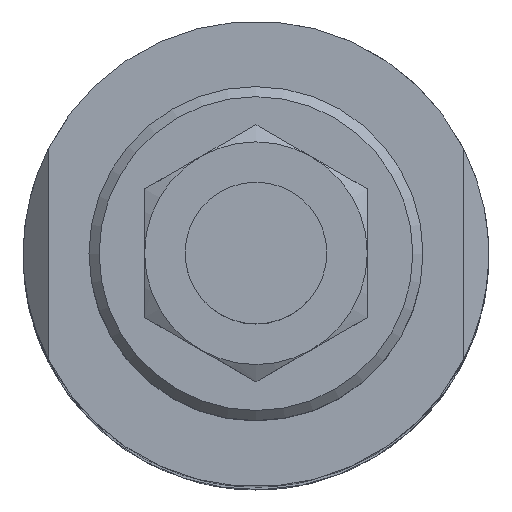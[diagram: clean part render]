
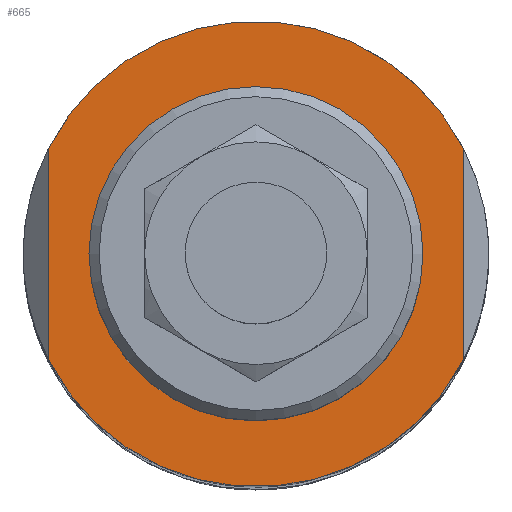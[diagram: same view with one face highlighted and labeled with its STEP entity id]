
A CAD part, top view. The second image highlights one B-rep face of the part: STEP entity #665.
In plain terms, the highlighted planar face has unit normal (0, 0, 1).
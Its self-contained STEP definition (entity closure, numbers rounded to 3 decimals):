
#549=CARTESIAN_POINT('',(-20.5,10.428,213.0));
#550=VERTEX_POINT('',#549);
#558=CARTESIAN_POINT('',(-20.5,-10.428,213.0));
#559=VERTEX_POINT('',#558);
#566=CARTESIAN_POINT('',(-20.5,10.428,213.0));
#567=DIRECTION('',(0.0,-1.0,0.0));
#568=VECTOR('',#567,20.857);
#569=LINE('',#566,#568);
#570=EDGE_CURVE('',#550,#559,#569,.T.);
#605=CARTESIAN_POINT('',(20.5,-10.428,213.));
#606=VERTEX_POINT('',#605);
#614=CARTESIAN_POINT('',(20.5,10.428,213.));
#615=VERTEX_POINT('',#614);
#622=CARTESIAN_POINT('',(20.5,-10.428,213.));
#623=DIRECTION('',(0.0,1.0,0.0));
#624=VECTOR('',#623,20.857);
#625=LINE('',#622,#624);
#626=EDGE_CURVE('',#606,#615,#625,.T.);
#631=CARTESIAN_POINT('',(0.0,0.0,213.0));
#632=DIRECTION('',(0.0,0.0,-1.0));
#633=DIRECTION('',(-1.0,0.0,0.0));
#634=AXIS2_PLACEMENT_3D('',#631,#632,#633);
#635=PLANE('',#634);
#636=ORIENTED_EDGE('',*,*,#570,.T.);
#637=CARTESIAN_POINT('',(0.0,0.0,213.0));
#638=DIRECTION('',(0.0,0.0,-1.0));
#639=DIRECTION('',(-1.0,0.0,0.0));
#640=AXIS2_PLACEMENT_3D('',#637,#638,#639);
#641=CIRCLE('',#640,23.);
#642=EDGE_CURVE('',#606,#559,#641,.T.);
#643=ORIENTED_EDGE('',*,*,#642,.F.);
#644=ORIENTED_EDGE('',*,*,#626,.T.);
#645=CARTESIAN_POINT('',(0.0,0.0,213.0));
#646=DIRECTION('',(0.0,0.0,-1.0));
#647=DIRECTION('',(-1.0,0.0,0.0));
#648=AXIS2_PLACEMENT_3D('',#645,#646,#647);
#649=CIRCLE('',#648,23.);
#650=EDGE_CURVE('',#550,#615,#649,.T.);
#651=ORIENTED_EDGE('',*,*,#650,.F.);
#652=EDGE_LOOP('',(#636,#643,#644,#651));
#653=FACE_OUTER_BOUND('',#652,.T.);
#654=CARTESIAN_POINT('',(16.5,0.,213.0));
#655=VERTEX_POINT('',#654);
#656=CARTESIAN_POINT('',(0.0,0.0,213.0));
#657=DIRECTION('',(0.0,0.0,-1.0));
#658=DIRECTION('',(-1.0,0.0,0.0));
#659=AXIS2_PLACEMENT_3D('',#656,#657,#658);
#660=CIRCLE('',#659,16.5);
#661=EDGE_CURVE('',#655,#655,#660,.T.);
#662=ORIENTED_EDGE('',*,*,#661,.T.);
#663=EDGE_LOOP('',(#662));
#664=FACE_BOUND('',#663,.T.);
#665=ADVANCED_FACE('',(#653,#664),#635,.F.);
